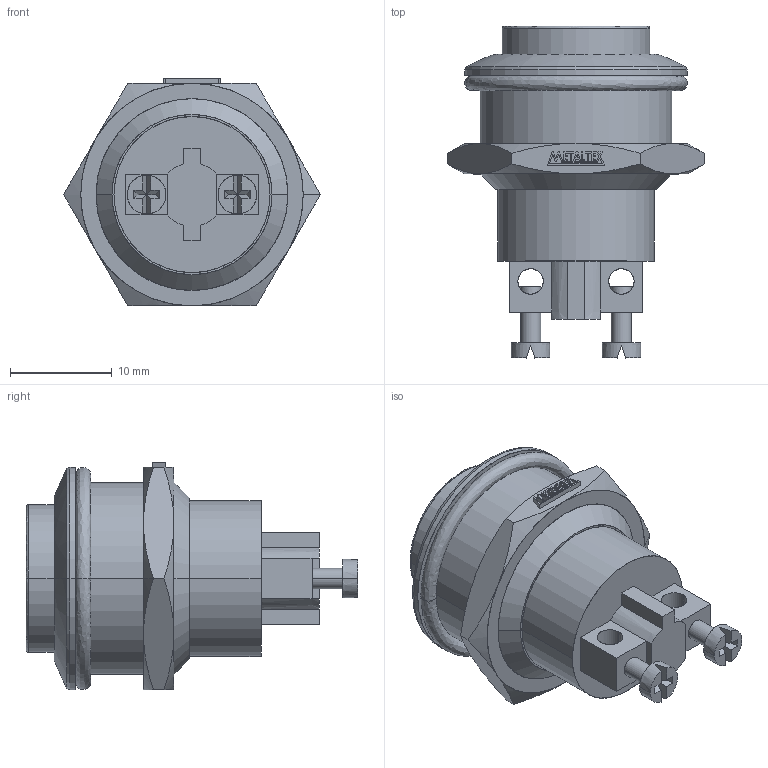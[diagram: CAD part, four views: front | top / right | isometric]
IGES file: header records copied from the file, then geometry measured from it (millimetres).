
Start section: SolidWorks IGES file using analytic representation for surfaces
Global section: file name: D:\X - Arquivos\PROEX\Empresas\P11 - METALTEX\01 - Produtos\IGES\Segunda remessa\AV19HA.IGS; native system: SolidWorks 2012; preprocessor: SolidWorks 2012; author: Usuario; date: 180117.123003; units: millimetre
Bounding box: 25.2 x 32.55 x 22.32 mm (x, y, z)
Surface area: 2910.6 mm2 (no closed solid volume)
Topology: 0 solids, 0 shells, 209 faces, 2138 edges, 2138 vertices
Faces by surface type: bspline 159, revolution 50
